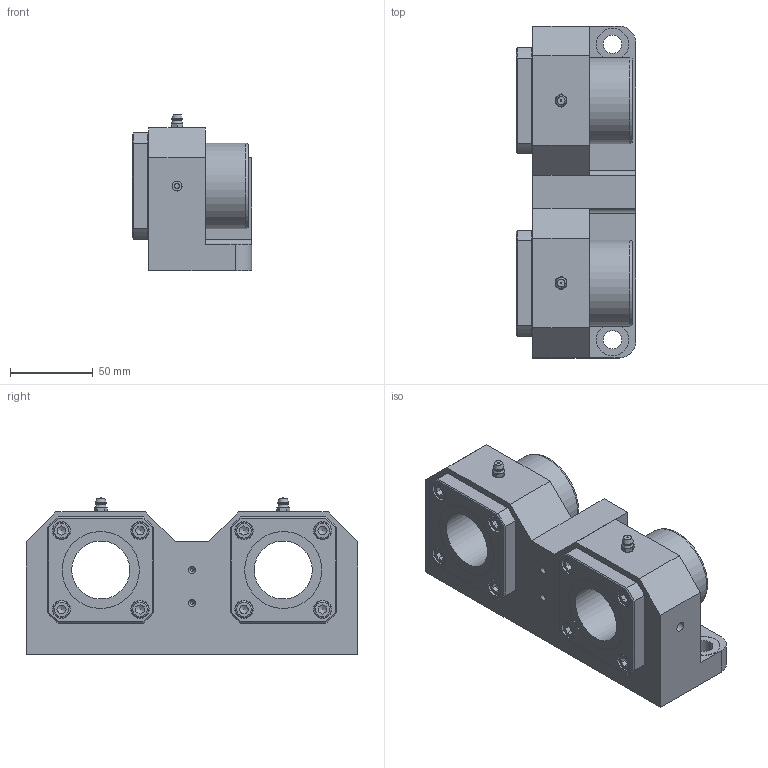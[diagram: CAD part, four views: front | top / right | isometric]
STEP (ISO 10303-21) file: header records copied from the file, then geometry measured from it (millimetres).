
FILE_DESCRIPTION((''),'2;1');
FILE_NAME('D:\製品 (図面)\カタログ用3D\リニアベアリング関連\STEP形式\LUF\LUF35.stp','2010-07-29T14:29:57',('Tsuchiya'),(''),'Autodesk Inventor 10','Autodesk Inventor 10','');
FILE_SCHEMA(('AUTOMOTIVE_DESIGN { 1 0 10303 214 1 1 1 1 }'));
Length unit declared in the file: millimetre
Products named in the file (4): LUF35; LUF351; LUF352; LUF353
Assembly tree (3 placements, depth 2):
  LUF35
    LUF351
    LUF352
    LUF353
Bounding box: 72 x 200 x 94.8 mm (x, y, z)
Volume: 716588.3 mm3; surface area: 132779.4 mm2
Topology: 13 solids, 13 shells, 358 faces, 786 edges, 494 vertices
Faces by surface type: plane 156, cylinder 82, cone 68, bspline 38, torus 10, sphere 4
Full cylindrical faces by diameter (mm): 2 x2, 3 x3, 6 x16, 6.6 x8, 10 x8, 11 x9, 19.5 x1, 35 x2, 46.4 x4, 52 x5
Entity records: 10763 total; most frequent: CARTESIAN_POINT 3955, DIRECTION 1336, ORIENTED_EDGE 1200, EDGE_CURVE 600, EDGE_LOOP 574, AXIS2_PLACEMENT_3D 565, VERTEX_POINT 448, FACE_OUTER_BOUND 358
